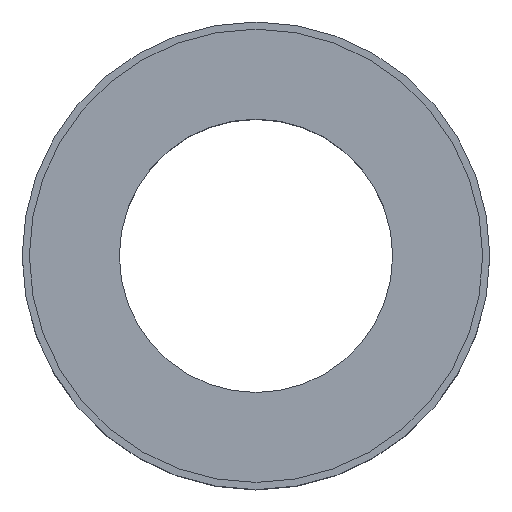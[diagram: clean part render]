
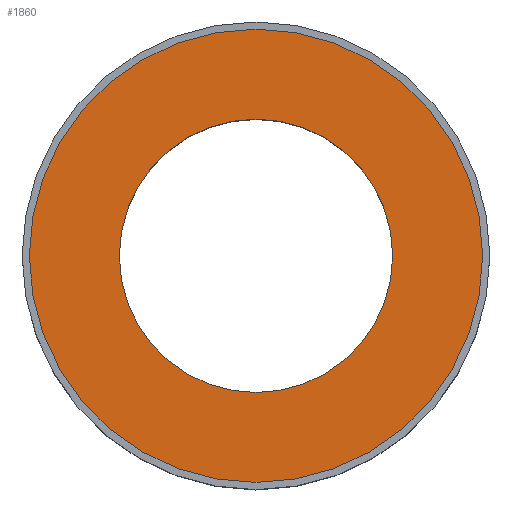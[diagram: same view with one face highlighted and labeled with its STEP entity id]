
A CAD part, top view. The second image highlights one B-rep face of the part: STEP entity #1860.
In plain terms, the highlighted planar face has unit normal (0, 0, 1).
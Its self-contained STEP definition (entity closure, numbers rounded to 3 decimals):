
#66 = DIRECTION ( 'NONE',  ( 1., 0., 0. ) ) ;
#117 = CARTESIAN_POINT ( 'NONE',  ( 0., 0., 15.5 ) ) ;
#222 = VERTEX_POINT ( 'NONE', #2092 ) ;
#338 = EDGE_CURVE ( 'NONE', #2194, #2730, #1911, .T. ) ;
#433 = CARTESIAN_POINT ( 'NONE',  ( 31.5, 0., 15.5 ) ) ;
#438 = CARTESIAN_POINT ( 'NONE',  ( 0., 0., 15.5 ) ) ;
#556 = CIRCLE ( 'NONE', #2952, 19. ) ;
#589 = PLANE ( 'NONE',  #1064 ) ;
#733 = DIRECTION ( 'NONE',  ( 1., 0., 0. ) ) ;
#737 = AXIS2_PLACEMENT_3D ( 'NONE', #2197, #1204, #733 ) ;
#842 = CARTESIAN_POINT ( 'NONE',  ( -19., 0., 15.5 ) ) ;
#1020 = FACE_BOUND ( 'NONE', #2734, .T. ) ;
#1064 = AXIS2_PLACEMENT_3D ( 'NONE', #842, #2981, #1085 ) ;
#1085 = DIRECTION ( 'NONE',  ( 1., 0., 0. ) ) ;
#1172 = EDGE_LOOP ( 'NONE', ( #3135, #3148 ) ) ;
#1204 = DIRECTION ( 'NONE',  ( 0., 0., 1. ) ) ;
#1215 = CIRCLE ( 'NONE', #737, 31.5 ) ;
#1247 = VERTEX_POINT ( 'NONE', #433 ) ;
#1270 = AXIS2_PLACEMENT_3D ( 'NONE', #438, #3091, #1895 ) ;
#1490 = CARTESIAN_POINT ( 'NONE',  ( -19., 0., 15.5 ) ) ;
#1769 = CIRCLE ( 'NONE', #2890, 31.5 ) ;
#1786 = ORIENTED_EDGE ( 'NONE', *, *, #338, .T. ) ;
#1818 = CARTESIAN_POINT ( 'NONE',  ( 19., 0., 15.5 ) ) ;
#1860 = ADVANCED_FACE ( 'NONE', ( #1020, #1887 ), #589, .T. ) ;
#1887 = FACE_OUTER_BOUND ( 'NONE', #1172, .T. ) ;
#1895 = DIRECTION ( 'NONE',  ( -1., 0., 0. ) ) ;
#1911 = CIRCLE ( 'NONE', #1270, 19. ) ;
#2092 = CARTESIAN_POINT ( 'NONE',  ( -31.5, 0., 15.5 ) ) ;
#2097 = DIRECTION ( 'NONE',  ( -1., 0., 0. ) ) ;
#2121 = CARTESIAN_POINT ( 'NONE',  ( 0., 0., 15.5 ) ) ;
#2144 = EDGE_CURVE ( 'NONE', #1247, #222, #1215, .T. ) ;
#2194 = VERTEX_POINT ( 'NONE', #1490 ) ;
#2197 = CARTESIAN_POINT ( 'NONE',  ( 0., 0., 15.5 ) ) ;
#2631 = EDGE_CURVE ( 'NONE', #222, #1247, #1769, .T. ) ;
#2683 = ORIENTED_EDGE ( 'NONE', *, *, #2782, .T. ) ;
#2730 = VERTEX_POINT ( 'NONE', #1818 ) ;
#2734 = EDGE_LOOP ( 'NONE', ( #1786, #2683 ) ) ;
#2782 = EDGE_CURVE ( 'NONE', #2730, #2194, #556, .T. ) ;
#2789 = DIRECTION ( 'NONE',  ( 0., 0., 1. ) ) ;
#2847 = DIRECTION ( 'NONE',  ( 0., 0., -1. ) ) ;
#2890 = AXIS2_PLACEMENT_3D ( 'NONE', #117, #2789, #66 ) ;
#2952 = AXIS2_PLACEMENT_3D ( 'NONE', #2121, #2847, #2097 ) ;
#2981 = DIRECTION ( 'NONE',  ( 0., 0., 1. ) ) ;
#3091 = DIRECTION ( 'NONE',  ( 0., 0., -1. ) ) ;
#3135 = ORIENTED_EDGE ( 'NONE', *, *, #2144, .T. ) ;
#3148 = ORIENTED_EDGE ( 'NONE', *, *, #2631, .T. ) ;
